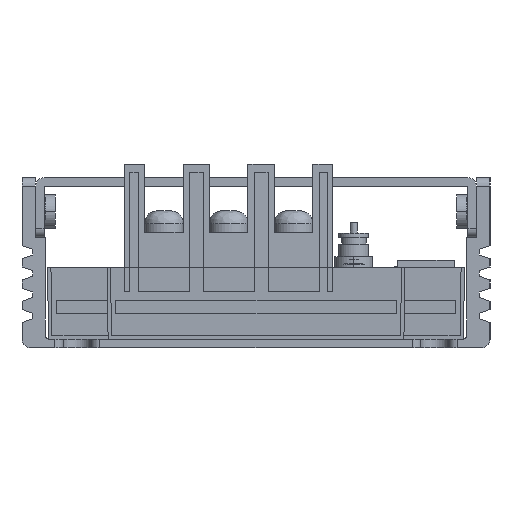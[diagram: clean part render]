
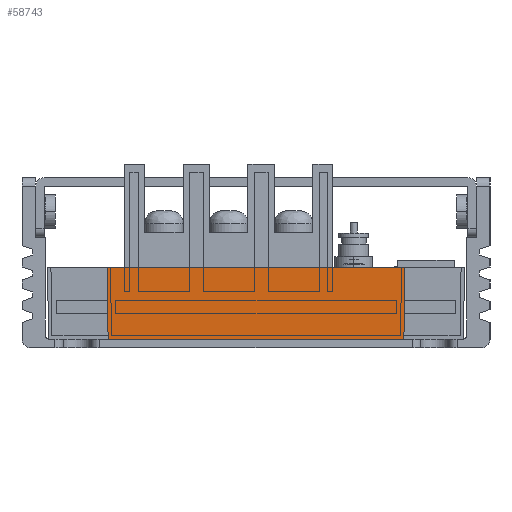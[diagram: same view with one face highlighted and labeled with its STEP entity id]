
A CAD part, left-side view. The second image highlights one B-rep face of the part: STEP entity #58743.
In plain terms, the highlighted planar face has unit normal (-1, 0, -0.014) as drawn and (0, -1, 0.014) by its records, which use the part's own axes.
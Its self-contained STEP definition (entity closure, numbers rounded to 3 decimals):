
#58195=DIRECTION('',(-1.,0.,0.));
#58196=VECTOR('',#58195,35.);
#58197=CARTESIAN_POINT('',(88.437,66.359,0.));
#58198=LINE('',#58197,#58196);
#58281=DIRECTION('',(-0.014,-0.014,-1.));
#58282=VECTOR('',#58281,8.502);
#58283=CARTESIAN_POINT('',(53.556,66.478,8.5));
#58284=LINE('',#58283,#58282);
#58288=DIRECTION('',(-1.,0.,0.));
#58289=VECTOR('',#58288,34.763);
#58290=CARTESIAN_POINT('',(88.319,66.478,8.5));
#58291=LINE('',#58290,#58289);
#58295=DIRECTION('',(-0.014,0.014,1.));
#58296=VECTOR('',#58295,8.502);
#58297=CARTESIAN_POINT('',(88.437,66.359,0.));
#58298=LINE('',#58297,#58296);
#58553=CARTESIAN_POINT('',(88.437,66.359,0.));
#58554=VERTEX_POINT('',#58553);
#58555=CARTESIAN_POINT('',(53.437,66.359,0.));
#58556=VERTEX_POINT('',#58555);
#58593=CARTESIAN_POINT('',(53.556,66.478,8.5));
#58594=VERTEX_POINT('',#58593);
#58595=CARTESIAN_POINT('',(88.319,66.478,8.5));
#58596=VERTEX_POINT('',#58595);
#58731=CARTESIAN_POINT('',(95.437,66.359,0.));
#58732=DIRECTION('',(0.,-1.,0.014));
#58733=DIRECTION('',(-1.,0.,0.));
#58734=AXIS2_PLACEMENT_3D('',#58731,#58732,#58733);
#58735=PLANE('',#58734);
#58737=ORIENTED_EDGE('',*,*,#58736,.F.);
#58738=ORIENTED_EDGE('',*,*,#58699,.F.);
#58739=ORIENTED_EDGE('',*,*,#58725,.F.);
#58740=ORIENTED_EDGE('',*,*,#58654,.T.);
#58741=EDGE_LOOP('',(#58737,#58738,#58739,#58740));
#58742=FACE_OUTER_BOUND('',#58741,.F.);
#58654=EDGE_CURVE('',#58554,#58556,#58198,.T.);
#58699=EDGE_CURVE('',#58596,#58594,#58291,.T.);
#58725=EDGE_CURVE('',#58554,#58596,#58298,.T.);
#58736=EDGE_CURVE('',#58594,#58556,#58284,.T.);
#58743=ADVANCED_FACE('',(#58742),#58735,.T.);
